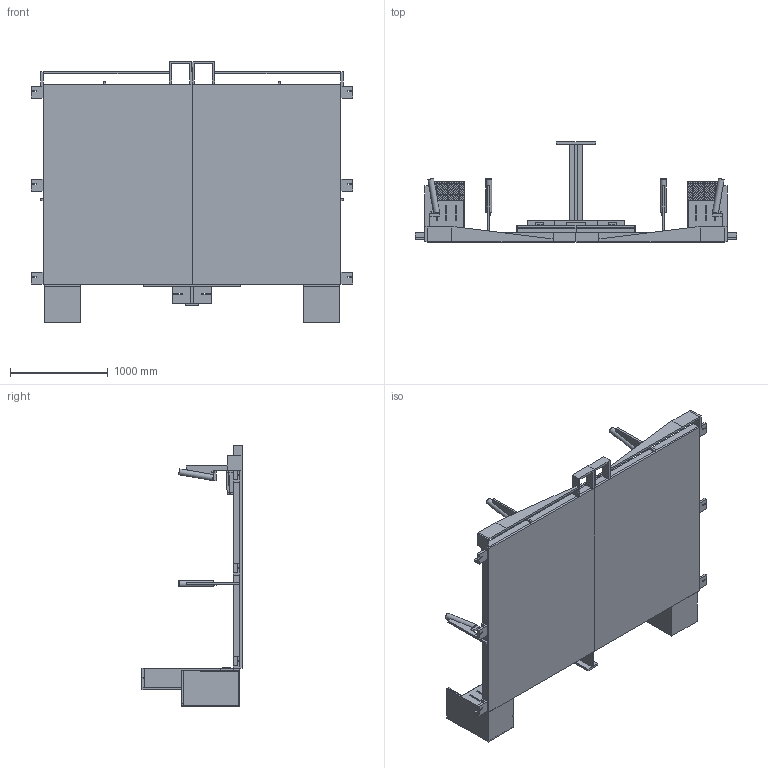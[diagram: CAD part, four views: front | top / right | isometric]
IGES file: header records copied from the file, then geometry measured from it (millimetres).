
Global section: file name: table2018v2 v151; native system: unknown; preprocessor: unknown; author: thomas.labois; organization: unknown; date: 20171016.220753; units: millimetre
Bounding box: 3288 x 1022 x 2666 mm (x, y, z)
Volume: 214121002.6 mm3; surface area: 36482776.4 mm2
Topology: 71 solids, 71 shells, 4731 faces, 13680 edges, 9044 vertices
Faces by surface type: bspline 4731
